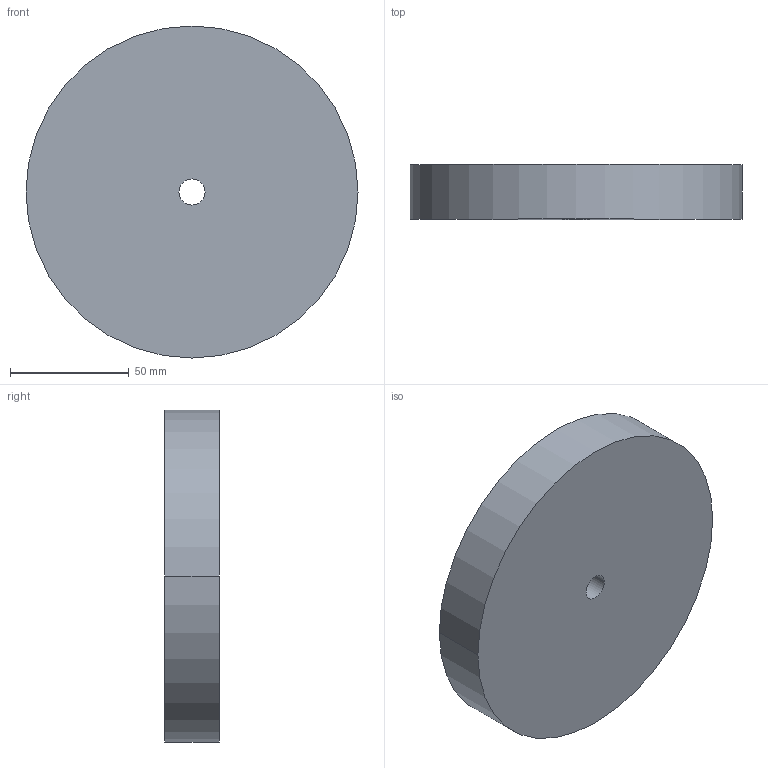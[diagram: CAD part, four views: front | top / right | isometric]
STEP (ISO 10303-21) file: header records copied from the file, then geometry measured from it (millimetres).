
FILE_DESCRIPTION((''),'1');
FILE_NAME('LALBG_size-126.step','2025-12-09T15:39:39',(''),(''),'','','');
FILE_SCHEMA(('AUTOMOTIVE_DESIGN { 1 0 10303 214 1 1 1 1 }'));
Products named in the file (1): LALBG size-126
Bounding box: 140 x 23 x 140 mm (x, y, z)
Volume: 308758.1 mm3; surface area: 43129.4 mm2
Topology: 1 solids, 1 shells, 12 faces, 24 edges, 16 vertices
Faces by surface type: cylinder 8, plane 4
Entity records: 354 total; most frequent: DIRECTION 66, CARTESIAN_POINT 53, ORIENTED_EDGE 48, AXIS2_PLACEMENT_3D 29, EDGE_CURVE 24, EDGE_LOOP 16, VERTEX_POINT 16, CIRCLE 16
